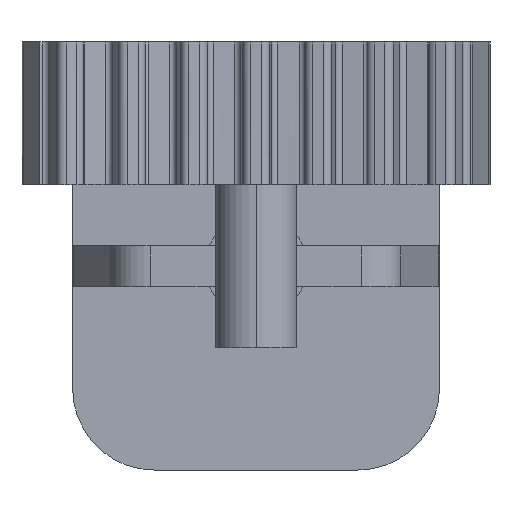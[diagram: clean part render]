
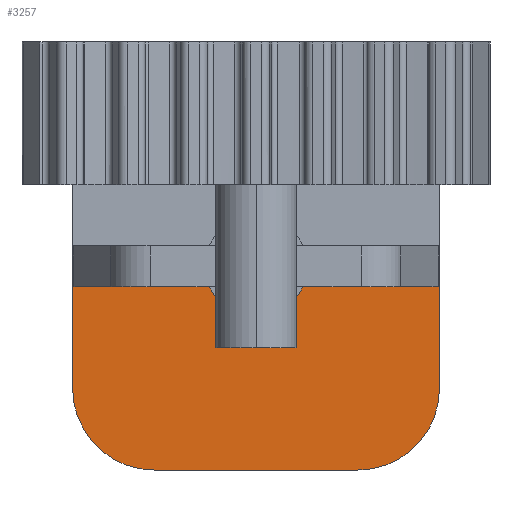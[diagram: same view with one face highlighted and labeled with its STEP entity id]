
A CAD part, front view. The second image highlights one B-rep face of the part: STEP entity #3257.
In plain terms, the highlighted planar face has unit normal (0, -1, 0).
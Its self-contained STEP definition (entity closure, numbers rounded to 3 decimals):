
#1572=AXIS2_PLACEMENT_3D('Plane Axis2P3D',#1569,#1570,#1571) ;
#1853=AXIS2_PLACEMENT_3D('Circle Axis2P3D',#1851,#1852,$) ;
#2125=AXIS2_PLACEMENT_3D('Circle Axis2P3D',#2123,#2124,$) ;
#2430=AXIS2_PLACEMENT_3D('Circle Axis2P3D',#2428,#2429,$) ;
#3186=AXIS2_PLACEMENT_3D('Circle Axis2P3D',#3184,#3185,$) ;
#1569=CARTESIAN_POINT('Axis2P3D Location',(-1.,23.,-5.683)) ;
#1805=CARTESIAN_POINT('Vertex',(1.146,23.,-2.5)) ;
#1808=CARTESIAN_POINT('Line Origine',(2.823,23.,-2.5)) ;
#1812=CARTESIAN_POINT('Vertex',(4.5,23.,-2.5)) ;
#1848=CARTESIAN_POINT('Vertex',(1.,23.,-2.75)) ;
#1851=CARTESIAN_POINT('Axis2P3D Location',(0.,23.,-2.)) ;
#1914=CARTESIAN_POINT('Vertex',(1.,23.,-4.)) ;
#1917=CARTESIAN_POINT('Line Origine',(1.,23.,-3.375)) ;
#2087=CARTESIAN_POINT('Line Origine',(4.5,23.,-3.25)) ;
#2091=CARTESIAN_POINT('Vertex',(4.5,23.,-4.)) ;
#2094=CARTESIAN_POINT('Line Origine',(4.5,23.,-4.5)) ;
#2098=CARTESIAN_POINT('Vertex',(4.5,23.,-5.)) ;
#2123=CARTESIAN_POINT('Axis2P3D Location',(2.5,23.,-5.)) ;
#2127=CARTESIAN_POINT('Vertex',(2.5,23.,-7.)) ;
#2154=CARTESIAN_POINT('Line Origine',(0.,23.,-7.)) ;
#2158=CARTESIAN_POINT('Vertex',(-2.5,23.,-7.)) ;
#2428=CARTESIAN_POINT('Axis2P3D Location',(-2.5,23.,-5.)) ;
#2432=CARTESIAN_POINT('Vertex',(-4.5,23.,-5.)) ;
#3184=CARTESIAN_POINT('Axis2P3D Location',(0.,23.,-2.)) ;
#3188=CARTESIAN_POINT('Vertex',(-1.,23.,-2.75)) ;
#3190=CARTESIAN_POINT('Vertex',(-1.146,23.,-2.5)) ;
#3210=CARTESIAN_POINT('Line Origine',(0.,23.,-4.)) ;
#3214=CARTESIAN_POINT('Vertex',(-1.,23.,-4.)) ;
#3217=CARTESIAN_POINT('Line Origine',(-1.,23.,-3.375)) ;
#3222=CARTESIAN_POINT('Line Origine',(-2.823,23.,-2.5)) ;
#3226=CARTESIAN_POINT('Vertex',(-4.5,23.,-2.5)) ;
#3229=CARTESIAN_POINT('Line Origine',(-4.5,23.,-3.25)) ;
#3233=CARTESIAN_POINT('Vertex',(-4.5,23.,-4.)) ;
#3236=CARTESIAN_POINT('Line Origine',(-4.5,23.,-4.5)) ;
#1570=DIRECTION('Axis2P3D Direction',(0.,1.,0.)) ;
#1571=DIRECTION('Axis2P3D XDirection',(0.,0.,1.)) ;
#1809=DIRECTION('Vector Direction',(-1.,0.,0.)) ;
#1852=DIRECTION('Axis2P3D Direction',(0.,1.,-0.)) ;
#1918=DIRECTION('Vector Direction',(0.,0.,-1.)) ;
#2088=DIRECTION('Vector Direction',(0.,0.,-1.)) ;
#2095=DIRECTION('Vector Direction',(0.,0.,-1.)) ;
#2124=DIRECTION('Axis2P3D Direction',(0.,-1.,0.)) ;
#2155=DIRECTION('Vector Direction',(1.,0.,0.)) ;
#2429=DIRECTION('Axis2P3D Direction',(0.,-1.,0.)) ;
#3185=DIRECTION('Axis2P3D Direction',(0.,1.,-0.)) ;
#3211=DIRECTION('Vector Direction',(1.,0.,0.)) ;
#3218=DIRECTION('Vector Direction',(0.,0.,1.)) ;
#3223=DIRECTION('Vector Direction',(-1.,0.,0.)) ;
#3230=DIRECTION('Vector Direction',(0.,0.,1.)) ;
#3237=DIRECTION('Vector Direction',(0.,0.,-1.)) ;
#1810=VECTOR('Line Direction',#1809,1.) ;
#1919=VECTOR('Line Direction',#1918,1.) ;
#2089=VECTOR('Line Direction',#2088,1.) ;
#2096=VECTOR('Line Direction',#2095,1.) ;
#2156=VECTOR('Line Direction',#2155,1.) ;
#3212=VECTOR('Line Direction',#3211,1.) ;
#3219=VECTOR('Line Direction',#3218,1.) ;
#3224=VECTOR('Line Direction',#3223,1.) ;
#3231=VECTOR('Line Direction',#3230,1.) ;
#3238=VECTOR('Line Direction',#3237,1.) ;
#3242=ORIENTED_EDGE('',*,*,#2129,.F.) ;
#3243=ORIENTED_EDGE('',*,*,#2100,.F.) ;
#3244=ORIENTED_EDGE('',*,*,#2093,.F.) ;
#3245=ORIENTED_EDGE('',*,*,#1814,.T.) ;
#3246=ORIENTED_EDGE('',*,*,#1855,.T.) ;
#3247=ORIENTED_EDGE('',*,*,#1921,.T.) ;
#3248=ORIENTED_EDGE('',*,*,#3216,.T.) ;
#3249=ORIENTED_EDGE('',*,*,#3221,.T.) ;
#3250=ORIENTED_EDGE('',*,*,#3192,.T.) ;
#3251=ORIENTED_EDGE('',*,*,#3228,.T.) ;
#3252=ORIENTED_EDGE('',*,*,#3235,.F.) ;
#3253=ORIENTED_EDGE('',*,*,#3240,.T.) ;
#3254=ORIENTED_EDGE('',*,*,#2434,.F.) ;
#3255=ORIENTED_EDGE('',*,*,#2160,.F.) ;
#3257=ADVANCED_FACE('\X2\96F64EF651E04F554F53\X0\',(#3256),#1573,.F.) ;
#1854=CIRCLE('generated circle',#1853,1.25) ;
#2126=CIRCLE('generated circle',#2125,2.) ;
#2431=CIRCLE('generated circle',#2430,2.) ;
#3187=CIRCLE('generated circle',#3186,1.25) ;
#1814=EDGE_CURVE('',#1813,#1806,#1811,.T.) ;
#1855=EDGE_CURVE('',#1806,#1849,#1854,.T.) ;
#1921=EDGE_CURVE('',#1849,#1915,#1920,.T.) ;
#2093=EDGE_CURVE('',#1813,#2092,#2090,.T.) ;
#2100=EDGE_CURVE('',#2092,#2099,#2097,.T.) ;
#2129=EDGE_CURVE('',#2099,#2128,#2126,.F.) ;
#2160=EDGE_CURVE('',#2128,#2159,#2157,.F.) ;
#2434=EDGE_CURVE('',#2159,#2433,#2431,.F.) ;
#3192=EDGE_CURVE('',#3189,#3191,#3187,.T.) ;
#3216=EDGE_CURVE('',#1915,#3215,#3213,.F.) ;
#3221=EDGE_CURVE('',#3215,#3189,#3220,.T.) ;
#3228=EDGE_CURVE('',#3191,#3227,#3225,.T.) ;
#3235=EDGE_CURVE('',#3234,#3227,#3232,.T.) ;
#3240=EDGE_CURVE('',#3234,#2433,#3239,.T.) ;
#3241=EDGE_LOOP('',(#3242,#3243,#3244,#3245,#3246,#3247,#3248,#3249,#3250,#3251,#3252,#3253,#3254,#3255)) ;
#3256=FACE_OUTER_BOUND('',#3241,.T.) ;
#1811=LINE('Line',#1808,#1810) ;
#1920=LINE('Line',#1917,#1919) ;
#2090=LINE('Line',#2087,#2089) ;
#2097=LINE('Line',#2094,#2096) ;
#2157=LINE('Line',#2154,#2156) ;
#3213=LINE('Line',#3210,#3212) ;
#3220=LINE('Line',#3217,#3219) ;
#3225=LINE('Line',#3222,#3224) ;
#3232=LINE('Line',#3229,#3231) ;
#3239=LINE('Line',#3236,#3238) ;
#1573=PLANE('Plane',#1572) ;
#1806=VERTEX_POINT('',#1805) ;
#1813=VERTEX_POINT('',#1812) ;
#1849=VERTEX_POINT('',#1848) ;
#1915=VERTEX_POINT('',#1914) ;
#2092=VERTEX_POINT('',#2091) ;
#2099=VERTEX_POINT('',#2098) ;
#2128=VERTEX_POINT('',#2127) ;
#2159=VERTEX_POINT('',#2158) ;
#2433=VERTEX_POINT('',#2432) ;
#3189=VERTEX_POINT('',#3188) ;
#3191=VERTEX_POINT('',#3190) ;
#3215=VERTEX_POINT('',#3214) ;
#3227=VERTEX_POINT('',#3226) ;
#3234=VERTEX_POINT('',#3233) ;
